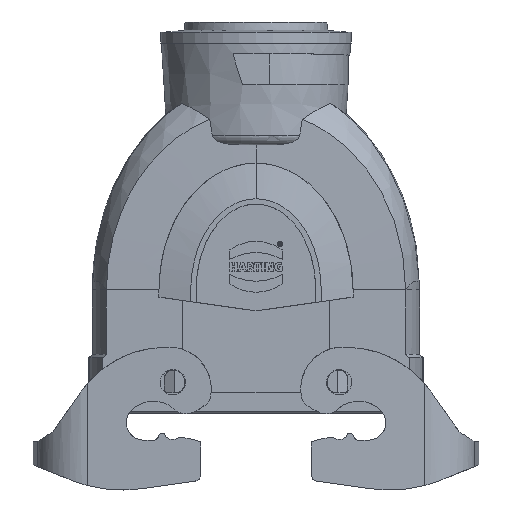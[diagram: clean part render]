
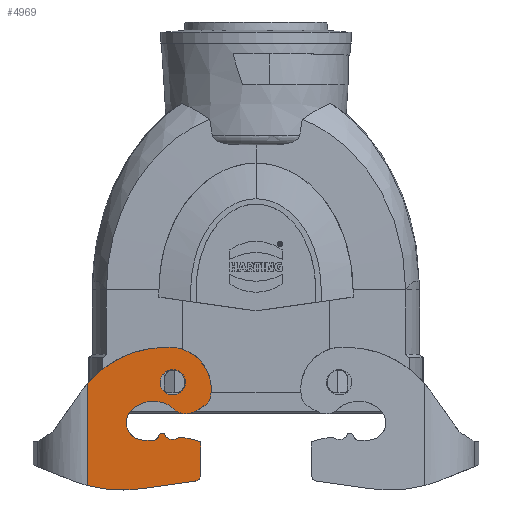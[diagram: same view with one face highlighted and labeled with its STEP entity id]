
A CAD part, front view. The second image highlights one B-rep face of the part: STEP entity #4969.
In plain terms, the highlighted planar face has unit normal (-0.035, -0.999, 0).
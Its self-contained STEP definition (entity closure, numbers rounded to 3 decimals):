
#4090=FACE_BOUND('',#6472,.T.);
#4091=FACE_BOUND('',#6473,.T.);
#4546=PLANE('',#17807);
#4969=ADVANCED_FACE('',(#4090,#4091),#4546,.T.);
#6472=EDGE_LOOP('',(#7902));
#6473=EDGE_LOOP('',(#7903,#7904,#7905,#7906,#7907,#7908,#7909,#7910,#7911,
#7912,#7913,#7914,#7915,#7916,#7917,#7918,#7919,#7920,#7921,#7922));
#7158=ELLIPSE('',#17638,12.007,12.);
#7167=ELLIPSE('',#17649,20.012,20.);
#7168=ELLIPSE('',#17651,3.002,3.);
#7189=ELLIPSE('',#17683,30.018,30.);
#7223=ELLIPSE('',#17738,40.024,40.);
#7239=ELLIPSE('',#17797,3.602,3.6);
#7240=ELLIPSE('',#17798,2.001,2.);
#7241=ELLIPSE('',#17799,15.009,15.);
#7242=ELLIPSE('',#17800,2.502,2.5);
#7243=ELLIPSE('',#17801,1.001,1.);
#7244=ELLIPSE('',#17802,1.501,1.5);
#7245=ELLIPSE('',#17803,5.003,5.);
#7246=ELLIPSE('',#17804,9.005,9.);
#7247=ELLIPSE('',#17805,5.003,5.);
#7248=ELLIPSE('',#17806,5.003,5.);
#7902=ORIENTED_EDGE('',*,*,#12800,.F.);
#7903=ORIENTED_EDGE('',*,*,#12788,.T.);
#7904=ORIENTED_EDGE('',*,*,#12721,.T.);
#7905=ORIENTED_EDGE('',*,*,#12801,.T.);
#7906=ORIENTED_EDGE('',*,*,#12802,.T.);
#7907=ORIENTED_EDGE('',*,*,#12803,.T.);
#7908=ORIENTED_EDGE('',*,*,#12804,.F.);
#7909=ORIENTED_EDGE('',*,*,#12805,.F.);
#7910=ORIENTED_EDGE('',*,*,#12806,.F.);
#7911=ORIENTED_EDGE('',*,*,#12807,.F.);
#7912=ORIENTED_EDGE('',*,*,#12808,.F.);
#7913=ORIENTED_EDGE('',*,*,#12809,.F.);
#7914=ORIENTED_EDGE('',*,*,#12810,.F.);
#7915=ORIENTED_EDGE('',*,*,#12811,.F.);
#7916=ORIENTED_EDGE('',*,*,#12812,.F.);
#7917=ORIENTED_EDGE('',*,*,#12813,.F.);
#7918=ORIENTED_EDGE('',*,*,#12571,.F.);
#7919=ORIENTED_EDGE('',*,*,#12573,.F.);
#7920=ORIENTED_EDGE('',*,*,#12551,.F.);
#7921=ORIENTED_EDGE('',*,*,#12814,.F.);
#7922=ORIENTED_EDGE('',*,*,#12634,.F.);
#11269=VERTEX_POINT('',#22208);
#11275=VERTEX_POINT('',#22220);
#11293=VERTEX_POINT('',#22260);
#11294=VERTEX_POINT('',#22262);
#11343=VERTEX_POINT('',#22382);
#11346=VERTEX_POINT('',#22391);
#11410=VERTEX_POINT('',#22584);
#11413=VERTEX_POINT('',#22591);
#11447=VERTEX_POINT('',#22754);
#11448=VERTEX_POINT('',#22756);
#11449=VERTEX_POINT('',#22758);
#11450=VERTEX_POINT('',#22760);
#11451=VERTEX_POINT('',#22762);
#11452=VERTEX_POINT('',#22764);
#11453=VERTEX_POINT('',#22766);
#11454=VERTEX_POINT('',#22768);
#11455=VERTEX_POINT('',#22770);
#11456=VERTEX_POINT('',#22772);
#11457=VERTEX_POINT('',#22774);
#11458=VERTEX_POINT('',#22776);
#11459=VERTEX_POINT('',#22778);
#12551=EDGE_CURVE('',#11275,#11269,#7158,.T.);
#12571=EDGE_CURVE('',#11293,#11294,#7167,.T.);
#12573=EDGE_CURVE('',#11269,#11293,#7168,.T.);
#12634=EDGE_CURVE('',#11346,#11343,#7189,.T.);
#12721=EDGE_CURVE('',#11410,#11413,#7223,.T.);
#12788=EDGE_CURVE('',#11346,#11410,#14588,.T.);
#12800=EDGE_CURVE('',#11447,#11447,#7239,.T.);
#12801=EDGE_CURVE('',#11413,#11448,#14594,.T.);
#12802=EDGE_CURVE('',#11448,#11449,#7240,.T.);
#12803=EDGE_CURVE('',#11449,#11450,#14595,.T.);
#12804=EDGE_CURVE('',#11451,#11450,#7241,.T.);
#12805=EDGE_CURVE('',#11452,#11451,#14596,.T.);
#12806=EDGE_CURVE('',#11453,#11452,#7242,.T.);
#12807=EDGE_CURVE('',#11454,#11453,#7243,.T.);
#12808=EDGE_CURVE('',#11455,#11454,#7244,.T.);
#12809=EDGE_CURVE('',#11456,#11455,#14597,.T.);
#12810=EDGE_CURVE('',#11457,#11456,#7245,.T.);
#12811=EDGE_CURVE('',#11458,#11457,#7246,.T.);
#12812=EDGE_CURVE('',#11459,#11458,#7247,.T.);
#12813=EDGE_CURVE('',#11294,#11459,#7248,.T.);
#12814=EDGE_CURVE('',#11343,#11275,#14598,.T.);
#14588=LINE('',#22733,#15713);
#14594=LINE('',#22755,#15719);
#14595=LINE('',#22759,#15720);
#14596=LINE('',#22763,#15721);
#14597=LINE('',#22771,#15722);
#14598=LINE('',#22780,#15723);
#15713=VECTOR('',#19256,1.);
#15719=VECTOR('',#19282,1.);
#15720=VECTOR('',#19285,1.);
#15721=VECTOR('',#19288,1.);
#15722=VECTOR('',#19295,1.);
#15723=VECTOR('',#19304,1.);
#17638=AXIS2_PLACEMENT_3D('',#22221,#18811,#18812);
#17649=AXIS2_PLACEMENT_3D('',#22261,#18844,#18845);
#17651=AXIS2_PLACEMENT_3D('',#22265,#18849,#18850);
#17683=AXIS2_PLACEMENT_3D('',#22392,#18952,#18953);
#17738=AXIS2_PLACEMENT_3D('',#22592,#19105,#19106);
#17797=AXIS2_PLACEMENT_3D('',#22753,#19280,#19281);
#17798=AXIS2_PLACEMENT_3D('',#22757,#19283,#19284);
#17799=AXIS2_PLACEMENT_3D('',#22761,#19286,#19287);
#17800=AXIS2_PLACEMENT_3D('',#22765,#19289,#19290);
#17801=AXIS2_PLACEMENT_3D('',#22767,#19291,#19292);
#17802=AXIS2_PLACEMENT_3D('',#22769,#19293,#19294);
#17803=AXIS2_PLACEMENT_3D('',#22773,#19296,#19297);
#17804=AXIS2_PLACEMENT_3D('',#22775,#19298,#19299);
#17805=AXIS2_PLACEMENT_3D('',#22777,#19300,#19301);
#17806=AXIS2_PLACEMENT_3D('',#22779,#19302,#19303);
#17807=AXIS2_PLACEMENT_3D('',#22781,#19305,#19306);
#18811=DIRECTION('',(0.035,0.999,0.));
#18812=DIRECTION('',(-0.999,0.035,0.));
#18844=DIRECTION('',(0.035,0.999,0.));
#18845=DIRECTION('',(-0.999,0.035,0.));
#18849=DIRECTION('',(0.035,0.999,0.));
#18850=DIRECTION('',(-0.999,0.035,0.));
#18952=DIRECTION('',(0.035,0.999,0.));
#18953=DIRECTION('',(-0.999,0.035,0.));
#19105=DIRECTION('',(-0.035,-0.999,0.));
#19106=DIRECTION('',(0.999,-0.035,0.));
#19256=DIRECTION('',(0.,0.,-1.));
#19280=DIRECTION('',(-0.035,-0.999,0.));
#19281=DIRECTION('',(-0.999,0.035,0.));
#19282=DIRECTION('',(0.99,-0.035,0.139));
#19283=DIRECTION('',(-0.035,-0.999,0.));
#19284=DIRECTION('',(-0.999,0.035,0.));
#19285=DIRECTION('',(0.,0.,1.));
#19286=DIRECTION('',(0.035,0.999,0.));
#19287=DIRECTION('',(-0.999,0.035,0.));
#19288=DIRECTION('',(0.996,-0.035,-0.087));
#19289=DIRECTION('',(-0.035,-0.999,0.));
#19290=DIRECTION('',(-0.999,0.035,0.));
#19291=DIRECTION('',(0.035,0.999,0.));
#19292=DIRECTION('',(-0.999,0.035,0.));
#19293=DIRECTION('',(-0.035,-0.999,0.));
#19294=DIRECTION('',(-0.999,0.035,0.));
#19295=DIRECTION('',(0.999,-0.035,0.));
#19296=DIRECTION('',(-0.035,-0.999,0.));
#19297=DIRECTION('',(-0.999,0.035,0.));
#19298=DIRECTION('',(-0.035,-0.999,0.));
#19299=DIRECTION('',(-0.999,0.035,0.));
#19300=DIRECTION('',(-0.035,-0.999,0.));
#19301=DIRECTION('',(-0.999,0.035,0.));
#19302=DIRECTION('',(0.035,0.999,0.));
#19303=DIRECTION('',(-0.999,0.035,0.));
#19304=DIRECTION('',(0.999,-0.035,0.035));
#19305=DIRECTION('',(-0.035,-0.999,0.));
#19306=DIRECTION('',(0.999,-0.035,0.));
#22208=CARTESIAN_POINT('',(-13.064,-28.273,-7.203));
#22220=CARTESIAN_POINT('',(-25.196,-27.849,7.396));
#22221=CARTESIAN_POINT('',(-24.777,-27.864,-4.597));
#22260=CARTESIAN_POINT('',(-14.19,-28.234,-8.95));
#22261=CARTESIAN_POINT('',(-26.206,-27.814,7.038));
#22262=CARTESIAN_POINT('',(-18.025,-28.1,-11.213));
#22265=CARTESIAN_POINT('',(-15.992,-28.171,-6.552));
#22382=CARTESIAN_POINT('',(-26.508,-27.804,7.35));
#22391=CARTESIAN_POINT('',(-48.076,-27.051,-2.919));
#22392=CARTESIAN_POINT('',(-25.461,-27.84,-22.632));
#22584=CARTESIAN_POINT('',(-48.076,-27.051,-32.115));
#22591=CARTESIAN_POINT('',(-32.485,-27.595,-33.002));
#22592=CARTESIAN_POINT('',(-38.052,-27.401,6.609));
#22733=CARTESIAN_POINT('',(-48.076,-27.051,-47.65));
#22753=CARTESIAN_POINT('',(-23.75,-27.9,-2.65));
#22754=CARTESIAN_POINT('',(-27.35,-27.774,-2.65));
#22755=CARTESIAN_POINT('',(-11.226,-28.337,-30.014));
#22756=CARTESIAN_POINT('',(-17.472,-28.119,-30.892));
#22757=CARTESIAN_POINT('',(-17.75,-28.11,-28.911));
#22758=CARTESIAN_POINT('',(-15.75,-28.179,-28.911));
#22759=CARTESIAN_POINT('',(-15.75,-28.179,-47.65));
#22760=CARTESIAN_POINT('',(-15.75,-28.179,-19.675));
#22761=CARTESIAN_POINT('',(-21.604,-27.975,-33.486));
#22762=CARTESIAN_POINT('',(-20.296,-28.021,-18.543));
#22763=CARTESIAN_POINT('',(-20.262,-28.022,-18.546));
#22764=CARTESIAN_POINT('',(-22.107,-27.957,-18.384));
#22765=CARTESIAN_POINT('',(-23.75,-27.9,-16.5));
#22766=CARTESIAN_POINT('',(-25.945,-27.823,-17.696));
#22767=CARTESIAN_POINT('',(-26.823,-27.793,-18.175));
#22768=CARTESIAN_POINT('',(-27.803,-27.758,-17.975));
#22769=CARTESIAN_POINT('',(-29.273,-27.707,-17.675));
#22770=CARTESIAN_POINT('',(-29.273,-27.707,-19.175));
#22771=CARTESIAN_POINT('',(-29.228,-27.709,-19.175));
#22772=CARTESIAN_POINT('',(-32.05,-27.61,-19.175));
#22773=CARTESIAN_POINT('',(-32.05,-27.61,-14.175));
#22774=CARTESIAN_POINT('',(-35.518,-27.489,-10.573));
#22775=CARTESIAN_POINT('',(-29.275,-27.707,-17.056));
#22776=CARTESIAN_POINT('',(-24.739,-27.865,-9.283));
#22777=CARTESIAN_POINT('',(-27.259,-27.777,-13.602));
#22778=CARTESIAN_POINT('',(-23.665,-27.903,-10.126));
#22779=CARTESIAN_POINT('',(-20.071,-28.028,-6.65));
#22780=CARTESIAN_POINT('',(-25.156,-27.851,7.397));
#22781=CARTESIAN_POINT('',(-8.75,-28.424,-47.65));
